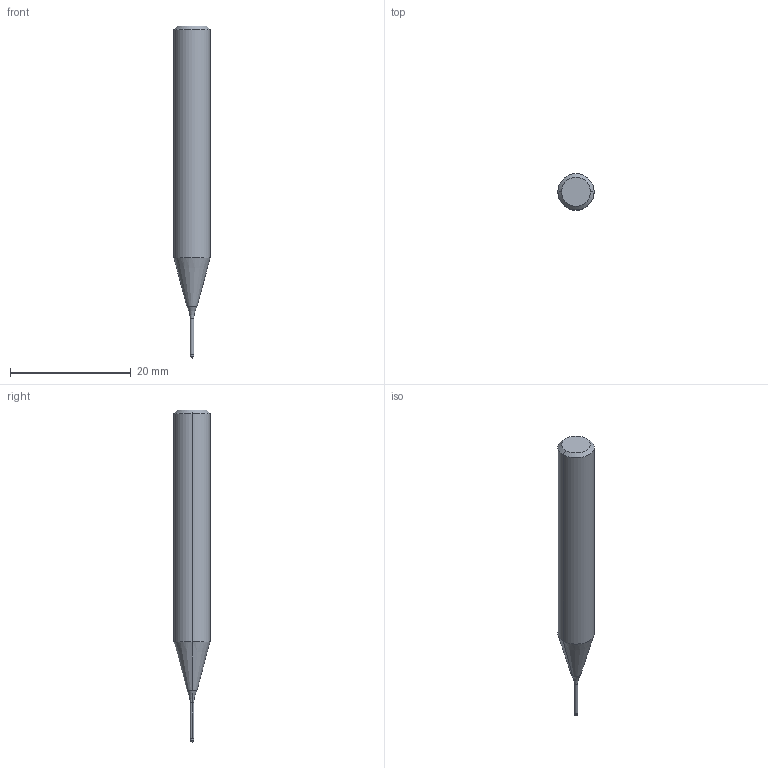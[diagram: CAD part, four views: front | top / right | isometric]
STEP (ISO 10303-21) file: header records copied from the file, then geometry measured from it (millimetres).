
FILE_DESCRIPTION (( 'STEP AP214' ), '1' );
FILE_NAME ('559.061.12_3D-model.step', '2022-02-18T15:24:43', ( '' ), ( '' ), 'SwSTEP 2.0', 'SolidWorks 2020', '' );
FILE_SCHEMA (( 'AUTOMOTIVE_DESIGN' ));
Length unit declared in the file: millimetre
Products named in the file (3): NOCUT-3D^Baugr170; 559.061.12_3D-model; CUT-3D^Baugr170
Assembly tree (2 placements, depth 2):
  559.061.12_3D-model
    CUT-3D^Baugr170
    NOCUT-3D^Baugr170
Bounding box: 6 x 6 x 55 mm (x, y, z)
Volume: 1188.7 mm3; surface area: 864.3 mm2
Topology: 2 solids, 2 shells, 19 faces, 38 edges, 21 vertices
Faces by surface type: cylinder 6, cone 6, plane 3, sphere 2, torus 2
Entity records: 604 total; most frequent: DIRECTION 114, CARTESIAN_POINT 84, ORIENTED_EDGE 72, AXIS2_PLACEMENT_3D 51, EDGE_CURVE 36, CIRCLE 24, VERTEX_POINT 21, ADVANCED_FACE 19
